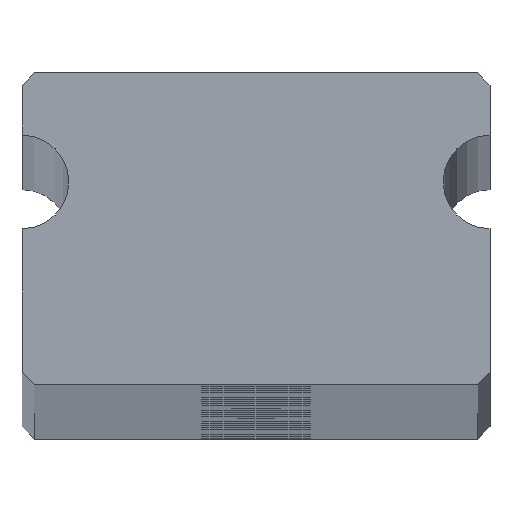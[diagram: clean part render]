
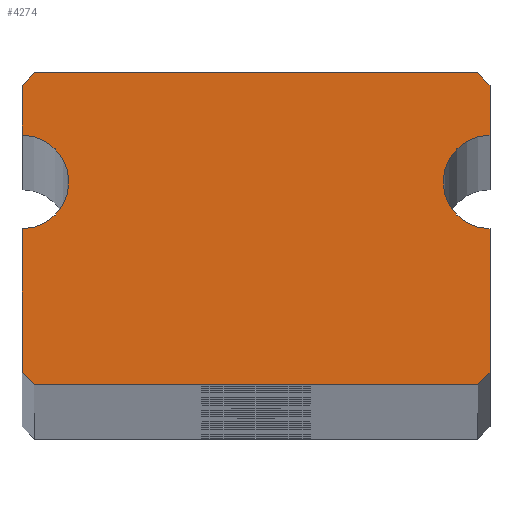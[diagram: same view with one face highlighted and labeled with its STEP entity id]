
A CAD part, top view. The second image highlights one B-rep face of the part: STEP entity #4274.
In plain terms, the highlighted planar face has unit normal (0, 0, 1).
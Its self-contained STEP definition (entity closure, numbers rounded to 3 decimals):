
#50 = VECTOR ( 'NONE', #1985, 1000. ) ;
#124 = DIRECTION ( 'NONE',  ( 1., 0., 0. ) ) ;
#127 = ORIENTED_EDGE ( 'NONE', *, *, #2317, .T. ) ;
#172 = CARTESIAN_POINT ( 'NONE',  ( 5.813, 1.407, 1000. ) ) ;
#194 = CARTESIAN_POINT ( 'NONE',  ( -7.287, 4.907, 1000. ) ) ;
#204 = CARTESIAN_POINT ( 'NONE',  ( 6.913, 4.907, 1000. ) ) ;
#236 = CARTESIAN_POINT ( 'NONE',  ( -7.687, -4.693, 1000. ) ) ;
#246 = EDGE_CURVE ( 'NONE', #3338, #3625, #2082, .T. ) ;
#303 = AXIS2_PLACEMENT_3D ( 'NONE', #419, #2423, #3761 ) ;
#320 = CARTESIAN_POINT ( 'NONE',  ( -7.687, -4.693, 1000. ) ) ;
#327 = VECTOR ( 'NONE', #2561, 1000. ) ;
#399 = LINE ( 'NONE', #790, #789 ) ;
#418 = ORIENTED_EDGE ( 'NONE', *, *, #3843, .T. ) ;
#419 = CARTESIAN_POINT ( 'NONE',  ( 7.313, 1.407, 1000. ) ) ;
#422 = DIRECTION ( 'NONE',  ( -1., 0., 0. ) ) ;
#437 = VECTOR ( 'NONE', #1569, 1000. ) ;
#442 = CARTESIAN_POINT ( 'NONE',  ( 6.913, -5.093, 1000. ) ) ;
#611 = CARTESIAN_POINT ( 'NONE',  ( 7.313, 1.407, 1000. ) ) ;
#660 = VERTEX_POINT ( 'NONE', #3129 ) ;
#663 = CARTESIAN_POINT ( 'NONE',  ( 7.313, -0.093, 1000. ) ) ;
#721 = VECTOR ( 'NONE', #124, 1000. ) ;
#749 = LINE ( 'NONE', #3435, #2390 ) ;
#768 = EDGE_CURVE ( 'NONE', #3856, #2339, #3168, .T. ) ;
#770 = LINE ( 'NONE', #442, #2620 ) ;
#789 = VECTOR ( 'NONE', #1076, 1000. ) ;
#790 = CARTESIAN_POINT ( 'NONE',  ( 7.313, 4.507, 1000. ) ) ;
#809 = ORIENTED_EDGE ( 'NONE', *, *, #1130, .T. ) ;
#829 = ORIENTED_EDGE ( 'NONE', *, *, #2594, .T. ) ;
#857 = DIRECTION ( 'NONE',  ( 0., 1., 0. ) ) ;
#896 = CARTESIAN_POINT ( 'NONE',  ( 7.313, 2.907, 1000. ) ) ;
#968 = DIRECTION ( 'NONE',  ( 0., 1., 0. ) ) ;
#975 = LINE ( 'NONE', #320, #50 ) ;
#1000 = DIRECTION ( 'NONE',  ( 0., 0., 1. ) ) ;
#1076 = DIRECTION ( 'NONE',  ( -0.707, 0.707, 0. ) ) ;
#1108 = ORIENTED_EDGE ( 'NONE', *, *, #246, .T. ) ;
#1116 = EDGE_CURVE ( 'NONE', #1326, #3236, #399, .T. ) ;
#1130 = EDGE_CURVE ( 'NONE', #2339, #2537, #3742, .T. ) ;
#1168 = EDGE_CURVE ( 'NONE', #3625, #3856, #770, .T. ) ;
#1194 = VECTOR ( 'NONE', #968, 1000. ) ;
#1224 = CARTESIAN_POINT ( 'NONE',  ( 7.313, 4.507, 1000. ) ) ;
#1311 = AXIS2_PLACEMENT_3D ( 'NONE', #3683, #1000, #1675 ) ;
#1318 = VERTEX_POINT ( 'NONE', #236 ) ;
#1326 = VERTEX_POINT ( 'NONE', #1224 ) ;
#1387 = ORIENTED_EDGE ( 'NONE', *, *, #768, .T. ) ;
#1437 = PLANE ( 'NONE',  #1311 ) ;
#1448 = DIRECTION ( 'NONE',  ( 0.707, 0.707, 0. ) ) ;
#1496 = VECTOR ( 'NONE', #857, 1000. ) ;
#1511 = DIRECTION ( 'NONE',  ( -0.707, -0.707, 0. ) ) ;
#1513 = CIRCLE ( 'NONE', #1724, 1.5 ) ;
#1569 = DIRECTION ( 'NONE',  ( 0., -1., 0. ) ) ;
#1617 = DIRECTION ( 'NONE',  ( 1., 0., 0. ) ) ;
#1670 = EDGE_LOOP ( 'NONE', ( #1108, #3953, #1387, #809, #3526, #127, #1767, #2825, #829, #2478, #3905, #418, #1894 ) ) ;
#1675 = DIRECTION ( 'NONE',  ( 1., 0., 0. ) ) ;
#1724 = AXIS2_PLACEMENT_3D ( 'NONE', #611, #1945, #1617 ) ;
#1767 = ORIENTED_EDGE ( 'NONE', *, *, #1116, .T. ) ;
#1807 = CARTESIAN_POINT ( 'NONE',  ( -7.687, -0.093, 1000. ) ) ;
#1853 = LINE ( 'NONE', #1807, #327 ) ;
#1862 = EDGE_CURVE ( 'NONE', #1925, #2516, #4070, .T. ) ;
#1866 = CIRCLE ( 'NONE', #2791, 1.5 ) ;
#1887 = CARTESIAN_POINT ( 'NONE',  ( 7.313, -4.693, 1000. ) ) ;
#1894 = ORIENTED_EDGE ( 'NONE', *, *, #4045, .T. ) ;
#1899 = CARTESIAN_POINT ( 'NONE',  ( -7.687, 2.907, 1000. ) ) ;
#1925 = VERTEX_POINT ( 'NONE', #3459 ) ;
#1945 = DIRECTION ( 'NONE',  ( 0., 0., -1. ) ) ;
#1985 = DIRECTION ( 'NONE',  ( 0.707, -0.707, 0. ) ) ;
#2079 = FACE_OUTER_BOUND ( 'NONE', #1670, .T. ) ;
#2082 = LINE ( 'NONE', #4099, #721 ) ;
#2124 = CARTESIAN_POINT ( 'NONE',  ( 7.313, -4.693, 1000. ) ) ;
#2317 = EDGE_CURVE ( 'NONE', #3966, #1326, #3956, .T. ) ;
#2339 = VERTEX_POINT ( 'NONE', #663 ) ;
#2345 = DIRECTION ( 'NONE',  ( 0., 0., -1. ) ) ;
#2390 = VECTOR ( 'NONE', #422, 1000. ) ;
#2423 = DIRECTION ( 'NONE',  ( 0., 0., -1. ) ) ;
#2428 = EDGE_CURVE ( 'NONE', #3236, #4024, #749, .T. ) ;
#2478 = ORIENTED_EDGE ( 'NONE', *, *, #1862, .T. ) ;
#2516 = VERTEX_POINT ( 'NONE', #1899 ) ;
#2518 = VECTOR ( 'NONE', #1511, 1000. ) ;
#2537 = VERTEX_POINT ( 'NONE', #172 ) ;
#2561 = DIRECTION ( 'NONE',  ( 0., -1., 0. ) ) ;
#2594 = EDGE_CURVE ( 'NONE', #4024, #1925, #3208, .T. ) ;
#2620 = VECTOR ( 'NONE', #1448, 1000. ) ;
#2682 = CARTESIAN_POINT ( 'NONE',  ( 6.913, -5.093, 1000. ) ) ;
#2761 = DIRECTION ( 'NONE',  ( 1., 0., 0. ) ) ;
#2791 = AXIS2_PLACEMENT_3D ( 'NONE', #3706, #2345, #2761 ) ;
#2825 = ORIENTED_EDGE ( 'NONE', *, *, #2428, .T. ) ;
#3027 = CARTESIAN_POINT ( 'NONE',  ( -7.687, 4.507, 1000. ) ) ;
#3129 = CARTESIAN_POINT ( 'NONE',  ( -7.687, -0.093, 1000. ) ) ;
#3168 = LINE ( 'NONE', #1887, #1496 ) ;
#3208 = LINE ( 'NONE', #194, #2518 ) ;
#3236 = VERTEX_POINT ( 'NONE', #204 ) ;
#3338 = VERTEX_POINT ( 'NONE', #4307 ) ;
#3435 = CARTESIAN_POINT ( 'NONE',  ( 6.913, 4.907, 1000. ) ) ;
#3459 = CARTESIAN_POINT ( 'NONE',  ( -7.687, 4.507, 1000. ) ) ;
#3526 = ORIENTED_EDGE ( 'NONE', *, *, #3710, .T. ) ;
#3625 = VERTEX_POINT ( 'NONE', #2682 ) ;
#3683 = CARTESIAN_POINT ( 'NONE',  ( 7.313, 1.407, 1000. ) ) ;
#3706 = CARTESIAN_POINT ( 'NONE',  ( -7.687, 1.407, 1000. ) ) ;
#3710 = EDGE_CURVE ( 'NONE', #2537, #3966, #1513, .T. ) ;
#3742 = CIRCLE ( 'NONE', #303, 1.5 ) ;
#3761 = DIRECTION ( 'NONE',  ( 1., 0., 0. ) ) ;
#3843 = EDGE_CURVE ( 'NONE', #660, #1318, #1853, .T. ) ;
#3856 = VERTEX_POINT ( 'NONE', #2124 ) ;
#3905 = ORIENTED_EDGE ( 'NONE', *, *, #4212, .T. ) ;
#3953 = ORIENTED_EDGE ( 'NONE', *, *, #1168, .T. ) ;
#3956 = LINE ( 'NONE', #896, #1194 ) ;
#3964 = CARTESIAN_POINT ( 'NONE',  ( -7.287, 4.907, 1000. ) ) ;
#3966 = VERTEX_POINT ( 'NONE', #4204 ) ;
#4024 = VERTEX_POINT ( 'NONE', #3964 ) ;
#4045 = EDGE_CURVE ( 'NONE', #1318, #3338, #975, .T. ) ;
#4070 = LINE ( 'NONE', #3027, #437 ) ;
#4099 = CARTESIAN_POINT ( 'NONE',  ( 0.513, -5.093, 1000. ) ) ;
#4204 = CARTESIAN_POINT ( 'NONE',  ( 7.313, 2.907, 1000. ) ) ;
#4212 = EDGE_CURVE ( 'NONE', #2516, #660, #1866, .T. ) ;
#4274 = ADVANCED_FACE ( 'NONE', ( #2079 ), #1437, .T. ) ;
#4307 = CARTESIAN_POINT ( 'NONE',  ( -7.287, -5.093, 1000. ) ) ;
